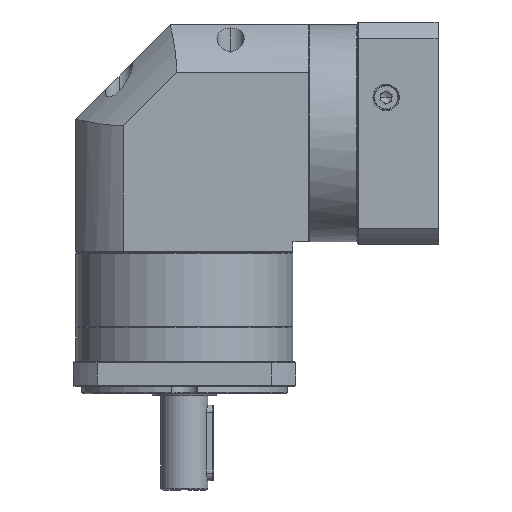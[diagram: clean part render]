
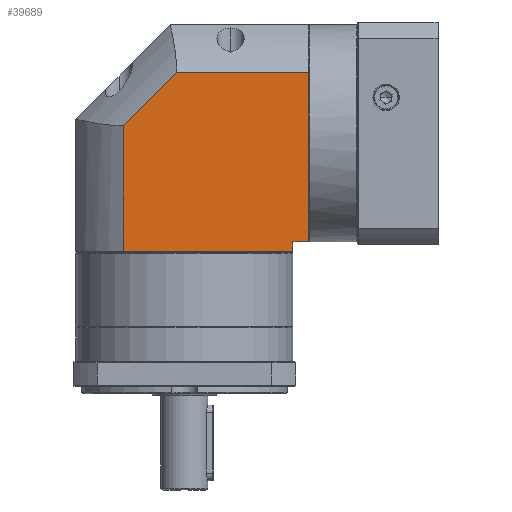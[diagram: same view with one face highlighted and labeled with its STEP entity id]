
A CAD part, front view. The second image highlights one B-rep face of the part: STEP entity #39689.
In plain terms, the highlighted planar face has unit normal (0, -1, 0).
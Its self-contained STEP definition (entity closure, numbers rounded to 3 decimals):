
#805 = CARTESIAN_POINT ( 'NONE',  ( 111.233, 11.319, -59.445 ) ) ;
#1347 = LINE ( 'NONE', #51085, #30538 ) ;
#3105 = EDGE_CURVE ( 'NONE', #91743, #115327, #38782, .T. ) ;
#6168 = VERTEX_POINT ( 'NONE', #58692 ) ;
#8847 = DIRECTION ( 'NONE',  ( 0., 0., -1. ) ) ;
#9420 = CARTESIAN_POINT ( 'NONE',  ( -12.167, 11.319, 41.955 ) ) ;
#9674 = ORIENTED_EDGE ( 'NONE', *, *, #26065, .F. ) ;
#9972 = DIRECTION ( 'NONE',  ( -1., 0., 0. ) ) ;
#11758 = CARTESIAN_POINT ( 'NONE',  ( -12.167, 11.319, -59.445 ) ) ;
#12199 = DIRECTION ( 'NONE',  ( 0., 1., 0. ) ) ;
#12975 = EDGE_CURVE ( 'NONE', #62068, #108189, #15504, .T. ) ;
#15504 = LINE ( 'NONE', #49515, #59125 ) ;
#22489 = EDGE_CURVE ( 'NONE', #108189, #101622, #1347, .T. ) ;
#24692 = LINE ( 'NONE', #9420, #69905 ) ;
#25735 = EDGE_CURVE ( 'NONE', #96983, #6168, #131283, .T. ) ;
#26065 = EDGE_CURVE ( 'NONE', #101622, #96983, #116629, .T. ) ;
#30538 = VECTOR ( 'NONE', #9972, 1000. ) ;
#37721 = VECTOR ( 'NONE', #75246, 1000. ) ;
#38782 = LINE ( 'NONE', #805, #131056 ) ;
#39689 = ADVANCED_FACE ( 'NONE', ( #114603 ), #61917, .F. ) ;
#43580 = AXIS2_PLACEMENT_3D ( 'NONE', #11758, #12199, #83600 ) ;
#44784 = DIRECTION ( 'NONE',  ( 0., 0., 1. ) ) ;
#49095 = ORIENTED_EDGE ( 'NONE', *, *, #63398, .F. ) ;
#49515 = CARTESIAN_POINT ( 'NONE',  ( 102.833, 11.319, -59.445 ) ) ;
#51085 = CARTESIAN_POINT ( 'NONE',  ( -12.167, 11.319, -52.945 ) ) ;
#51432 = DIRECTION ( 'NONE',  ( 1., 0., 0. ) ) ;
#58692 = CARTESIAN_POINT ( 'NONE',  ( 41.271, 11.319, 41.955 ) ) ;
#59125 = VECTOR ( 'NONE', #8847, 1000. ) ;
#61113 = ORIENTED_EDGE ( 'NONE', *, *, #12975, .F. ) ;
#61579 = CARTESIAN_POINT ( 'NONE',  ( 12.933, 11.319, 13.617 ) ) ;
#61917 = PLANE ( 'NONE',  #43580 ) ;
#62068 = VERTEX_POINT ( 'NONE', #116687 ) ;
#63054 = ORIENTED_EDGE ( 'NONE', *, *, #86007, .F. ) ;
#63398 = EDGE_CURVE ( 'NONE', #6168, #91743, #24692, .T. ) ;
#64810 = CARTESIAN_POINT ( 'NONE',  ( -12.167, 11.319, -47.945 ) ) ;
#68526 = CARTESIAN_POINT ( 'NONE',  ( 111.233, 11.319, -47.945 ) ) ;
#69905 = VECTOR ( 'NONE', #51432, 1000. ) ;
#70826 = ORIENTED_EDGE ( 'NONE', *, *, #3105, .F. ) ;
#72810 = EDGE_LOOP ( 'NONE', ( #61113, #63054, #70826, #49095, #100050, #9674, #82801 ) ) ;
#75246 = DIRECTION ( 'NONE',  ( -1., 0., 0. ) ) ;
#78614 = CARTESIAN_POINT ( 'NONE',  ( 12.933, 11.319, -52.945 ) ) ;
#80954 = CARTESIAN_POINT ( 'NONE',  ( 12.933, 11.319, 13.617 ) ) ;
#82801 = ORIENTED_EDGE ( 'NONE', *, *, #22489, .F. ) ;
#83054 = DIRECTION ( 'NONE',  ( 0., 0., -1. ) ) ;
#83600 = DIRECTION ( 'NONE',  ( 1., 0., 0. ) ) ;
#84263 = VECTOR ( 'NONE', #44784, 1000. ) ;
#85883 = CARTESIAN_POINT ( 'NONE',  ( 12.933, 11.319, -59.445 ) ) ;
#86007 = EDGE_CURVE ( 'NONE', #115327, #62068, #120236, .T. ) ;
#91626 = CARTESIAN_POINT ( 'NONE',  ( 111.233, 11.319, 41.955 ) ) ;
#91743 = VERTEX_POINT ( 'NONE', #91626 ) ;
#96983 = VERTEX_POINT ( 'NONE', #61579 ) ;
#98883 = VECTOR ( 'NONE', #122152, 1000. ) ;
#98924 = CARTESIAN_POINT ( 'NONE',  ( 102.833, 11.319, -52.945 ) ) ;
#100050 = ORIENTED_EDGE ( 'NONE', *, *, #25735, .F. ) ;
#101622 = VERTEX_POINT ( 'NONE', #78614 ) ;
#108189 = VERTEX_POINT ( 'NONE', #98924 ) ;
#114603 = FACE_OUTER_BOUND ( 'NONE', #72810, .T. ) ;
#115327 = VERTEX_POINT ( 'NONE', #68526 ) ;
#116629 = LINE ( 'NONE', #85883, #84263 ) ;
#116687 = CARTESIAN_POINT ( 'NONE',  ( 102.833, 11.319, -47.945 ) ) ;
#120236 = LINE ( 'NONE', #64810, #37721 ) ;
#122152 = DIRECTION ( 'NONE',  ( 0.707, 0., 0.707 ) ) ;
#131056 = VECTOR ( 'NONE', #83054, 1000. ) ;
#131283 = LINE ( 'NONE', #80954, #98883 ) ;
